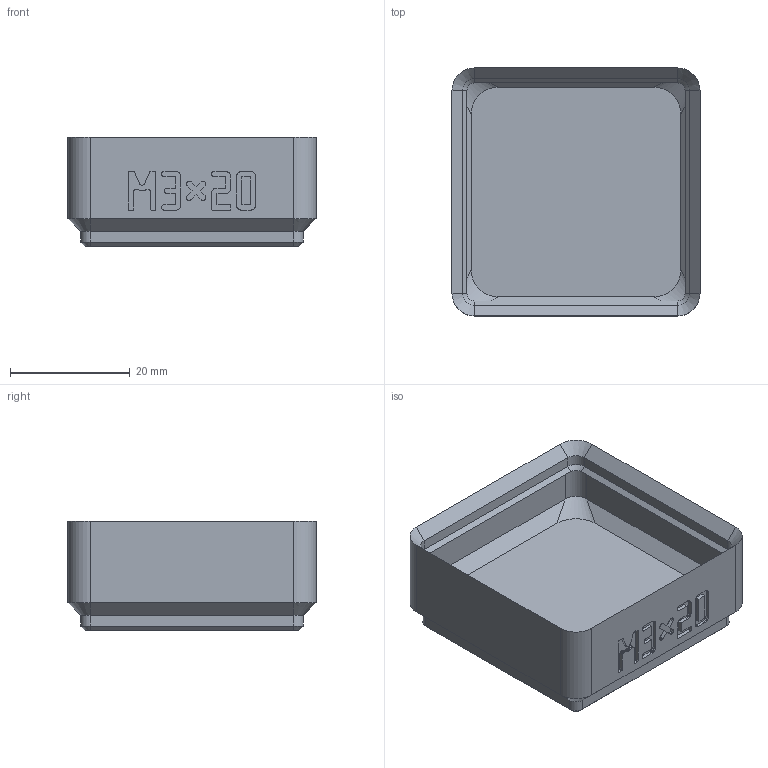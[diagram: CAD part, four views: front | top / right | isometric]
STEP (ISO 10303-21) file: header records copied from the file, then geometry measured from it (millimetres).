
FILE_DESCRIPTION(('Open CASCADE Model'),'2;1');
FILE_NAME('bin_m3x20','2026-11-03T16:47:45',('Author'),('Open CASCADE'), 'Open CASCADE STEP processor 8.0','build123d','Unknown');
FILE_SCHEMA(('AUTOMOTIVE_DESIGN { 1 0 10303 214 1 1 1 1 }'));
Length unit declared in the file: millimetre
Products named in the file (1): bin_m3x20
Bounding box: 41.5 x 41.5 x 18.4 mm (x, y, z)
Volume: 10994.6 mm3; surface area: 8295.6 mm2
Topology: 1 solids, 1 shells, 602 faces, 1699 edges, 1114 vertices
Faces by surface type: plane 554, cylinder 24, cone 16, bspline 8
Full cylindrical faces by diameter (mm): 3.2 x4, 6.5 x4
Entity records: 40026 total; most frequent: CARTESIAN_POINT 8092, DIRECTION 5169, LINE 3831, VECTOR 3831, ORIENTED_EDGE 3398, PCURVE 3398, DEFINITIONAL_REPRESENTATION 3398, EDGE_CURVE 1699
